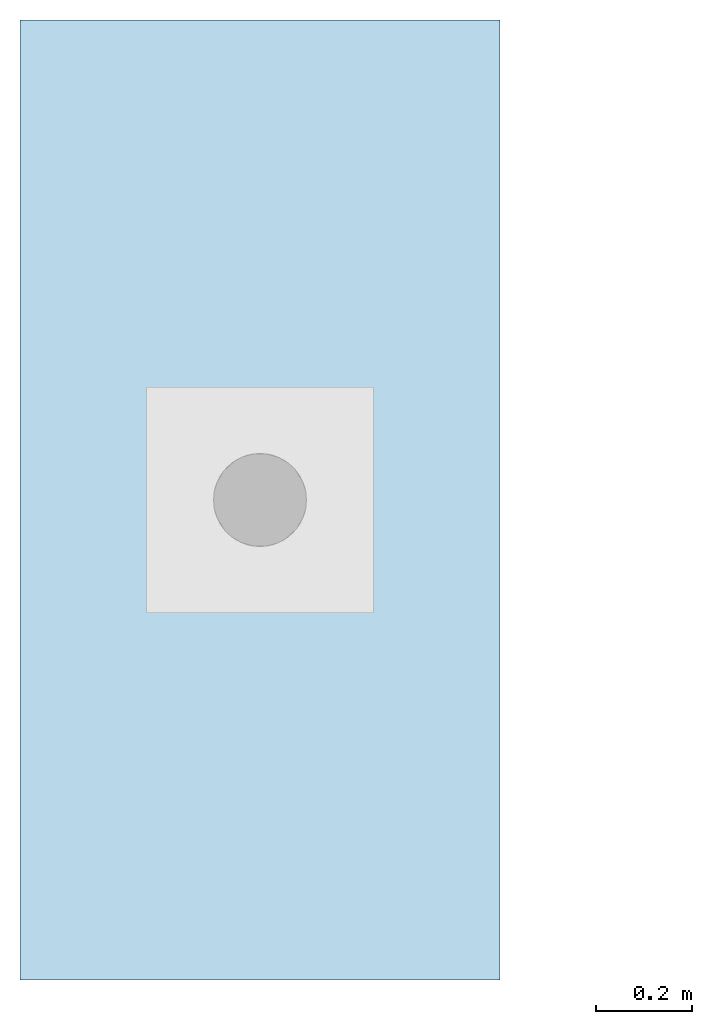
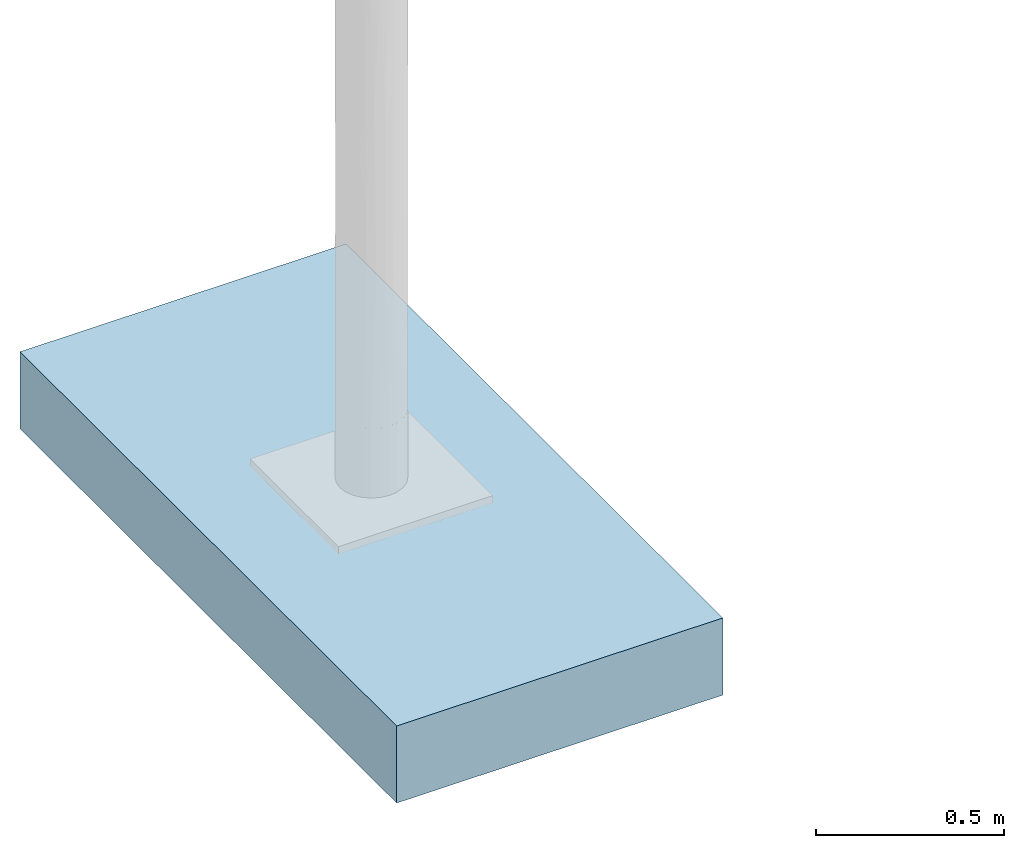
# One storey, incomplete: 1 slab.
"""IFC4 building model written with IfcOpenShell, lengths in metres."""

from ifc_helpers import new_model, entity, si_unit, converted_unit, direction, frame, frame_2d, origin, place, context, subcontext, project, spatial, rectangle, extrude, type_object, element, save


model = new_model("IFC4")

# Units and contexts
model_context = context("Model", 3, precision=1e-05, world=origin(), true_north=direction((6.123031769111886e-17, 1.0)))
body_context = subcontext(model_context, "Body", "Model", "MODEL_VIEW")
ifc_project = project(units=[si_unit("LENGTHUNIT", "METRE"), converted_unit("PLANEANGLEUNIT", "DEGREE", entity("IfcPlaneAngleMeasure", 0.017453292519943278), si_unit("PLANEANGLEUNIT", "RADIAN"), dimensions=[0, 0, 0, 0, 0, 0, 0]), si_unit("AREAUNIT", "SQUARE_METRE")], contexts=[model_context])

# Site, building, storey
site_placement = place(None, origin())
site = spatial("IfcSite", under=ifc_project, at=site_placement, Name="Default", CompositionType="ELEMENT")
building_placement = place(site_placement, origin())
building = spatial("IfcBuilding", under=site, at=building_placement, CompositionType="ELEMENT")
storey_placement = place(building_placement, origin())
storey = spatial("IfcBuildingStorey", under=building, at=storey_placement, Name="Ebene 0", CompositionType="ELEMENT", Elevation=0.0)

# Slab
slab_type = type_object("IfcSlabType", Name="DB_ZIM_Fundament:DB_ZIM_Fundament", PredefinedType="BASESLAB")
slab_placement = place(storey_placement, origin())
element("IfcSlab", 1, at=slab_placement, inside=storey, type_object=slab_type, Name="DB_ZIM_Fundament:DB_ZIM_Fundament", ObjectType="DB_ZIM_Fundament:DB_ZIM_Fundament", PredefinedType="BASESLAB", context=body_context, shape_type="SweptSolid", body=[
    extrude(rectangle(XDim=0.9999999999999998, YDim=2.0, at=frame_2d((0.09999999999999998, 0.0), x_axis=(1.0, 0.0))), frame((-0.09999999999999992, 0.0, -0.4999500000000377)), (0.0, 0.0, 1.0), 0.25),
])

save(model, "model.ifc")
